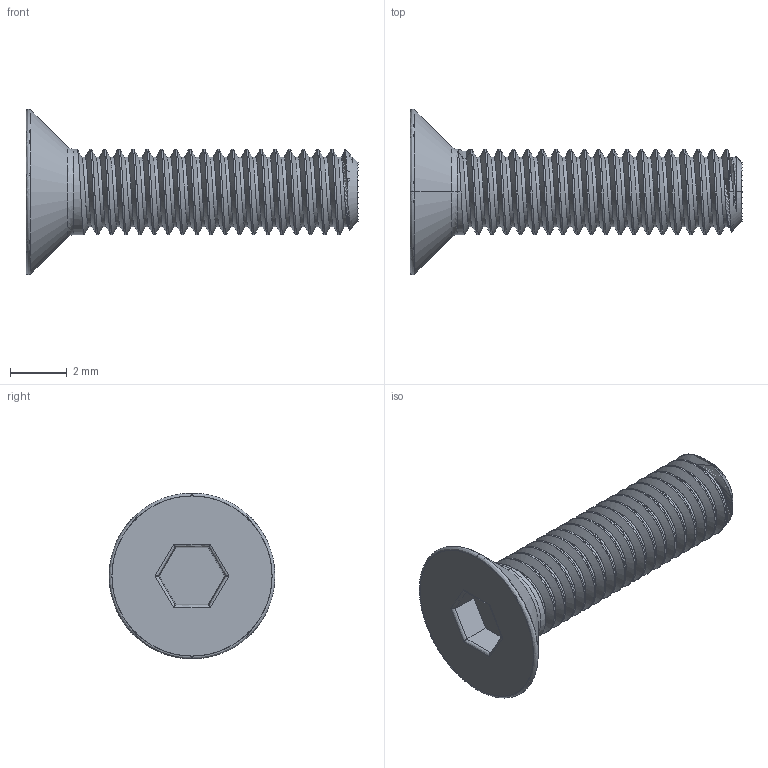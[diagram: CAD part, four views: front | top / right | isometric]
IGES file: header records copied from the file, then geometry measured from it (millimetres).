
Start section: SolidWorks IGES file using analytic representation for surfaces
Global section: file name: C:\Users\DELL\Desktop\Metric_counter_Sunk_Screew\M3_Screw\M3_Countersunk_Screw_10.IGS; native system: SolidWorks 2018; preprocessor: SolidWorks 2018; author: DELL; date: 200316.222654; units: millimetre
Bounding box: 11.68 x 5.84 x 5.84 mm (x, y, z)
Surface area: 203.6 mm2 (no closed solid volume)
Topology: 0 solids, 0 shells, 68 faces, 1161 edges, 1161 vertices
Faces by surface type: revolution 49, bspline 19
